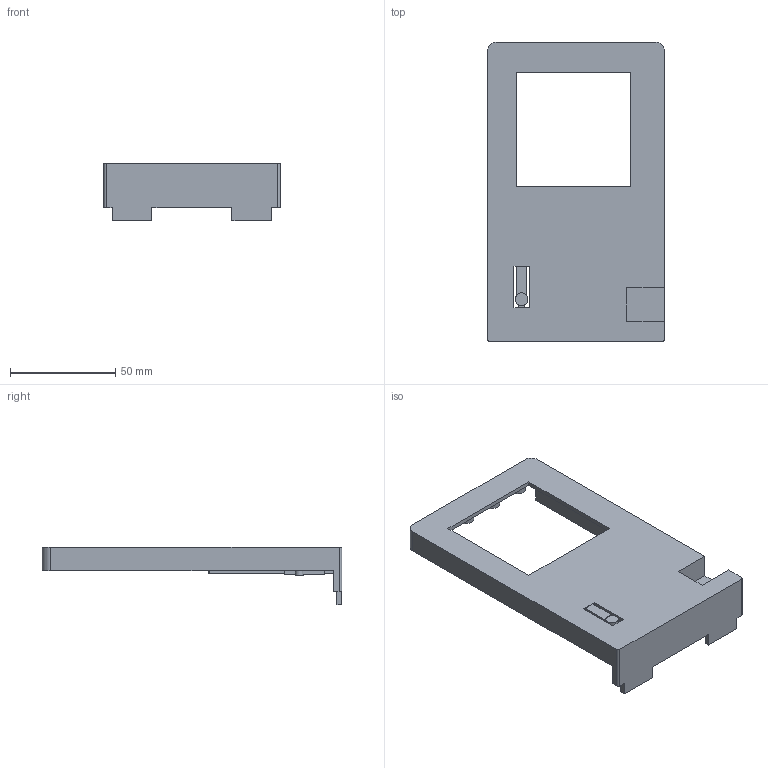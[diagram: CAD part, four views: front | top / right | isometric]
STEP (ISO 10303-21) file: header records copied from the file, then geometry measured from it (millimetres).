
FILE_DESCRIPTION(('FreeCAD Model'),'2;1');
FILE_NAME('Open CASCADE Shape Model','2026-11-05T07:51:57',('FreeCAD'),( 'FreeCAD'),'Open CASCADE STEP processor 7.8','FreeCAD','Unknown');
FILE_SCHEMA(('AUTOMOTIVE_DESIGN { 1 0 10303 214 1 1 1 1 }'));
Length unit declared in the file: millimetre
Products named in the file (1): Open CASCADE STEP translator 7.8 2
Bounding box: 84 x 142.4 x 27.4 mm (x, y, z)
Volume: 33509.4 mm3; surface area: 33933.7 mm2
Topology: 1 solids, 1 shells, 169 faces, 440 edges, 293 vertices
Faces by surface type: plane 139, cylinder 30
Full cylindrical faces by diameter (mm): 3.6 x1, 5.4 x8, 6 x1, 7.4 x8
Entity records: 5153 total; most frequent: CARTESIAN_POINT 903, ORIENTED_EDGE 880, DIRECTION 845, EDGE_CURVE 440, LINE 375, VECTOR 375, VERTEX_POINT 293, AXIS2_PLACEMENT_3D 235
